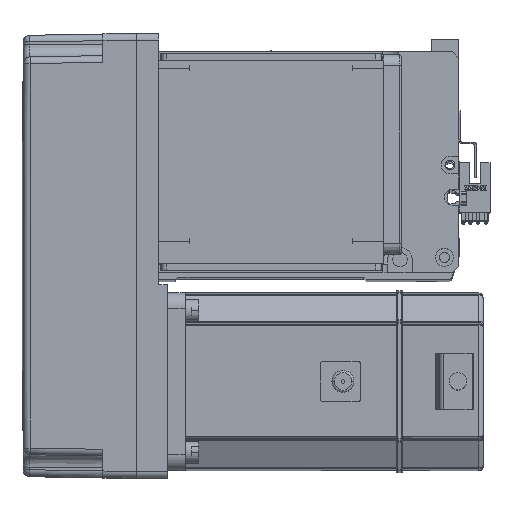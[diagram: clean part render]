
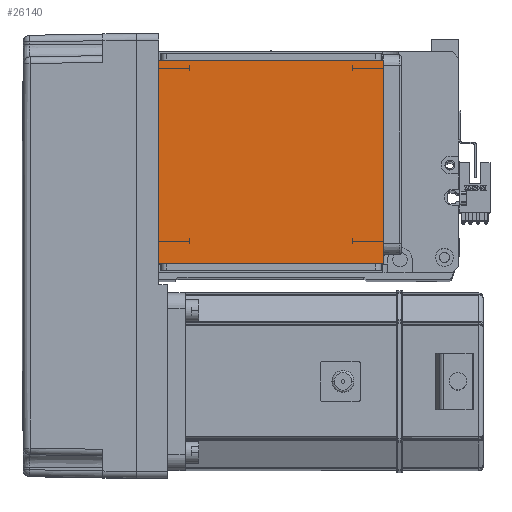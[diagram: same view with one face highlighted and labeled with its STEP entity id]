
A CAD part, top view. The second image highlights one B-rep face of the part: STEP entity #26140.
In plain terms, the highlighted planar face has unit normal (0, 0, 1).
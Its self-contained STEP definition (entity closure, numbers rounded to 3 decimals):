
#669 = DIRECTION ( 'NONE',  ( 0., 1., 0. ) ) ;
#1526 = VECTOR ( 'NONE', #40791, 1000. ) ;
#4365 = CARTESIAN_POINT ( 'NONE',  ( 0., 0., 115. ) ) ;
#6368 = VECTOR ( 'NONE', #669, 1000. ) ;
#8212 = PLANE ( 'NONE',  #14512 ) ;
#8605 = VECTOR ( 'NONE', #31364, 1000. ) ;
#10502 = CARTESIAN_POINT ( 'NONE',  ( -50.5, 20., 115. ) ) ;
#12675 = LINE ( 'NONE', #18785, #8605 ) ;
#14512 = AXIS2_PLACEMENT_3D ( 'NONE', #4365, #16782, #29753 ) ;
#14663 = CARTESIAN_POINT ( 'NONE',  ( -50.5, 111.5, 115. ) ) ;
#15902 = LINE ( 'NONE', #18702, #1526 ) ;
#16782 = DIRECTION ( 'NONE',  ( 0., 0., 1. ) ) ;
#17269 = DIRECTION ( 'NONE',  ( -1., 0., 0. ) ) ;
#18058 = VECTOR ( 'NONE', #17269, 1000. ) ;
#18368 = CARTESIAN_POINT ( 'NONE',  ( 50.5, 111.5, 115. ) ) ;
#18702 = CARTESIAN_POINT ( 'NONE',  ( -50.5, 122., 115. ) ) ;
#18785 = CARTESIAN_POINT ( 'NONE',  ( -70.004, 111.5, 115. ) ) ;
#19007 = CARTESIAN_POINT ( 'NONE',  ( 50.5, 20., 115. ) ) ;
#21832 = CARTESIAN_POINT ( 'NONE',  ( -70.004, 20., 115. ) ) ;
#22126 = EDGE_CURVE ( 'NONE', #32914, #54889, #12675, .T. ) ;
#24447 = EDGE_CURVE ( 'NONE', #32914, #53944, #15902, .T. ) ;
#25199 = EDGE_LOOP ( 'NONE', ( #37578, #36769, #38063, #53476 ) ) ;
#26140 = ADVANCED_FACE ( 'NONE', ( #52800 ), #8212, .T. ) ;
#26739 = EDGE_CURVE ( 'NONE', #42897, #53944, #40522, .T. ) ;
#26832 = CARTESIAN_POINT ( 'NONE',  ( 50.5, 122., 115. ) ) ;
#29379 = EDGE_CURVE ( 'NONE', #42897, #54889, #47279, .T. ) ;
#29753 = DIRECTION ( 'NONE',  ( 1., 0., 0. ) ) ;
#31364 = DIRECTION ( 'NONE',  ( 1., 0., 0. ) ) ;
#32914 = VERTEX_POINT ( 'NONE', #14663 ) ;
#36769 = ORIENTED_EDGE ( 'NONE', *, *, #24447, .T. ) ;
#37578 = ORIENTED_EDGE ( 'NONE', *, *, #22126, .F. ) ;
#38063 = ORIENTED_EDGE ( 'NONE', *, *, #26739, .F. ) ;
#40522 = LINE ( 'NONE', #21832, #18058 ) ;
#40791 = DIRECTION ( 'NONE',  ( 0., -1., 0. ) ) ;
#42897 = VERTEX_POINT ( 'NONE', #19007 ) ;
#47279 = LINE ( 'NONE', #26832, #6368 ) ;
#52800 = FACE_OUTER_BOUND ( 'NONE', #25199, .T. ) ;
#53476 = ORIENTED_EDGE ( 'NONE', *, *, #29379, .T. ) ;
#53944 = VERTEX_POINT ( 'NONE', #10502 ) ;
#54889 = VERTEX_POINT ( 'NONE', #18368 ) ;
